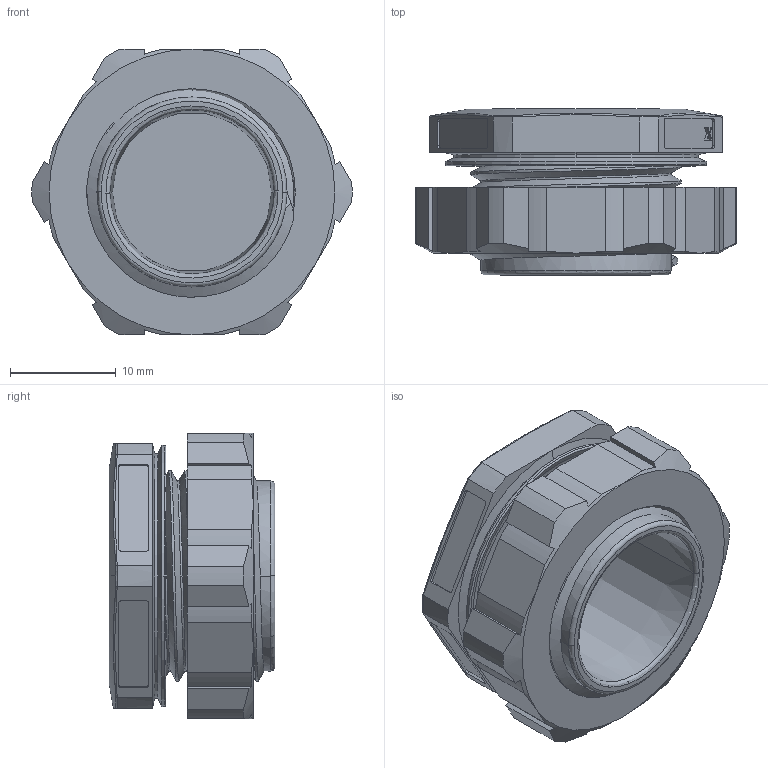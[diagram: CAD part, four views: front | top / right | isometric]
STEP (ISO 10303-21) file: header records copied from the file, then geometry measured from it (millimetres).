
FILE_DESCRIPTION (( 'STEP AP214' ), '1' );
FILE_NAME ('UA-006.STEP', '2015-08-31T13:00:15', ( 'doug' ), ( '' ), 'SwSTEP 2.0', 'SolidWorks 2015', '' );
FILE_SCHEMA (( 'AUTOMOTIVE_DESIGN' ));
Length unit declared in the file: inch
Products named in the file (3): NUT-M20-01; UA-006-BODY; UA-006
Assembly tree (2 placements, depth 2):
  UA-006
    UA-006-BODY
    NUT-M20-01
Bounding box: 30.21 x 15.65 x 26.97 mm (x, y, z)
Volume: 5107.5 mm3; surface area: 5368.1 mm2
Topology: 3 solids, 3 shells, 376 faces, 1025 edges, 670 vertices
Faces by surface type: plane 242, cylinder 71, cone 32, bspline 21, torus 10
Entity records: 22988 total; most frequent: CARTESIAN_POINT 13608, ORIENTED_EDGE 2050, DIRECTION 1731, EDGE_CURVE 1025, LINE 685, VECTOR 685, VERTEX_POINT 670, AXIS2_PLACEMENT_3D 523
